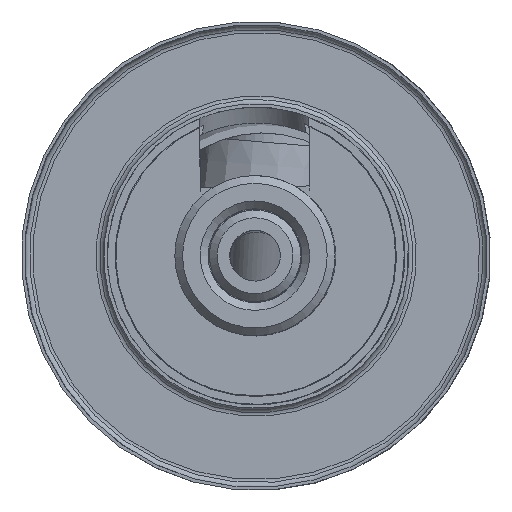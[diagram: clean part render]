
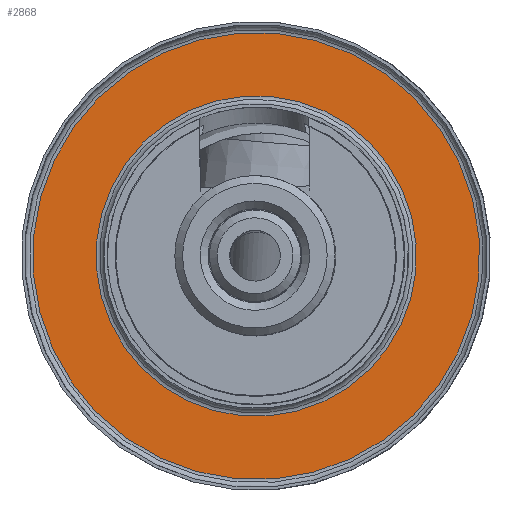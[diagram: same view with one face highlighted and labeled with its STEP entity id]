
A CAD part, top view. The second image highlights one B-rep face of the part: STEP entity #2868.
In plain terms, the highlighted planar face has unit normal (-0.006, 0, 1) as drawn and (0, -1, 0) by its records, which use the part's own axes.
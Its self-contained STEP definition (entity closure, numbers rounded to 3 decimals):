
#213=FACE_BOUND('',#538,.T.);
#265=PLANE('',#3428);
#363=FACE_OUTER_BOUND('',#537,.T.);
#537=EDGE_LOOP('',(#2092,#2093));
#538=EDGE_LOOP('',(#2094,#2095));
#1044=CIRCLE('',#3423,20.5);
#1048=CIRCLE('',#3427,20.5);
#1049=CIRCLE('',#3429,28.6);
#1050=CIRCLE('',#3430,28.6);
#1293=VERTEX_POINT('',#5055);
#1294=VERTEX_POINT('',#5056);
#1297=VERTEX_POINT('',#5065);
#1298=VERTEX_POINT('',#5066);
#1602=EDGE_CURVE('',#1293,#1294,#1044,.T.);
#1606=EDGE_CURVE('',#1294,#1293,#1048,.T.);
#1607=EDGE_CURVE('',#1297,#1298,#1049,.T.);
#1608=EDGE_CURVE('',#1298,#1297,#1050,.T.);
#2092=ORIENTED_EDGE('',*,*,#1607,.F.);
#2093=ORIENTED_EDGE('',*,*,#1608,.F.);
#2094=ORIENTED_EDGE('',*,*,#1602,.F.);
#2095=ORIENTED_EDGE('',*,*,#1606,.F.);
#2868=ADVANCED_FACE('',(#363,#213),#265,.F.);
#3423=AXIS2_PLACEMENT_3D('',#5057,#3975,#3976);
#3427=AXIS2_PLACEMENT_3D('',#5063,#3983,#3984);
#3428=AXIS2_PLACEMENT_3D('',#5064,#3985,#3986);
#3429=AXIS2_PLACEMENT_3D('',#5067,#3987,#3988);
#3430=AXIS2_PLACEMENT_3D('',#5068,#3989,#3990);
#3975=DIRECTION('center_axis',(0.,-1.,0.));
#3976=DIRECTION('ref_axis',(-1.,0.,0.));
#3983=DIRECTION('center_axis',(0.,-1.,0.));
#3984=DIRECTION('ref_axis',(-1.,0.,0.));
#3985=DIRECTION('center_axis',(0.,1.,0.));
#3986=DIRECTION('ref_axis',(0.,0.,1.));
#3987=DIRECTION('center_axis',(0.,1.,0.));
#3988=DIRECTION('ref_axis',(1.,0.,0.));
#3989=DIRECTION('center_axis',(0.,1.,0.));
#3990=DIRECTION('ref_axis',(1.,0.,0.));
#5055=CARTESIAN_POINT('',(20.5,11.6,0.));
#5056=CARTESIAN_POINT('',(0.,11.6,-20.5));
#5057=CARTESIAN_POINT('Origin',(0.,11.6,0.));
#5063=CARTESIAN_POINT('Origin',(0.,11.6,0.));
#5064=CARTESIAN_POINT('Origin',(0.,11.6,0.));
#5065=CARTESIAN_POINT('',(-28.6,11.6,0.));
#5066=CARTESIAN_POINT('',(0.,11.6,-28.6));
#5067=CARTESIAN_POINT('Origin',(0.,11.6,0.));
#5068=CARTESIAN_POINT('Origin',(0.,11.6,0.));
